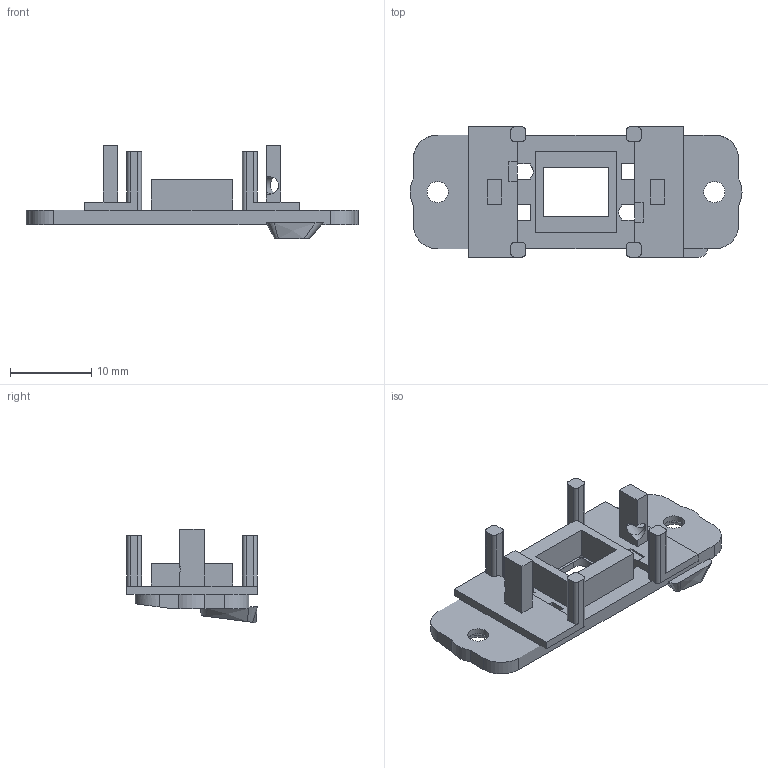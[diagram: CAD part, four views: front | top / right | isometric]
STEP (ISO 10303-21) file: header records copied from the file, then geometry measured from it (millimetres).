
FILE_DESCRIPTION(('Open CASCADE Model'),'2;1');
FILE_NAME('Open CASCADE Shape Model','2026-09-16T15:34:22',('Author'),( 'Open CASCADE'),'Open CASCADE STEP processor 7.7','Open CASCADE 7.7' ,'Unknown');
FILE_SCHEMA(('AUTOMOTIVE_DESIGN { 1 0 10303 214 1 1 1 1 }'));
Length unit declared in the file: millimetre
Products named in the file (1): COMPOUND
Bounding box: 40.8 x 16.01 x 11.5 mm (x, y, z)
Volume: 1339.6 mm3; surface area: 2019.8 mm2
Topology: 1 solids, 1 shells, 179 faces, 535 edges, 354 vertices
Faces by surface type: plane 123, cylinder 43, bspline 9, torus 2, cone 2
Full cylindrical faces by diameter (mm): 2.2 x1, 2.6 x2, 3.92 x2
Entity records: 13620 total; most frequent: CARTESIAN_POINT 3205, DIRECTION 1864, LINE 1248, VECTOR 1248, ORIENTED_EDGE 1070, PCURVE 1070, DEFINITIONAL_REPRESENTATION 1070, EDGE_CURVE 535
